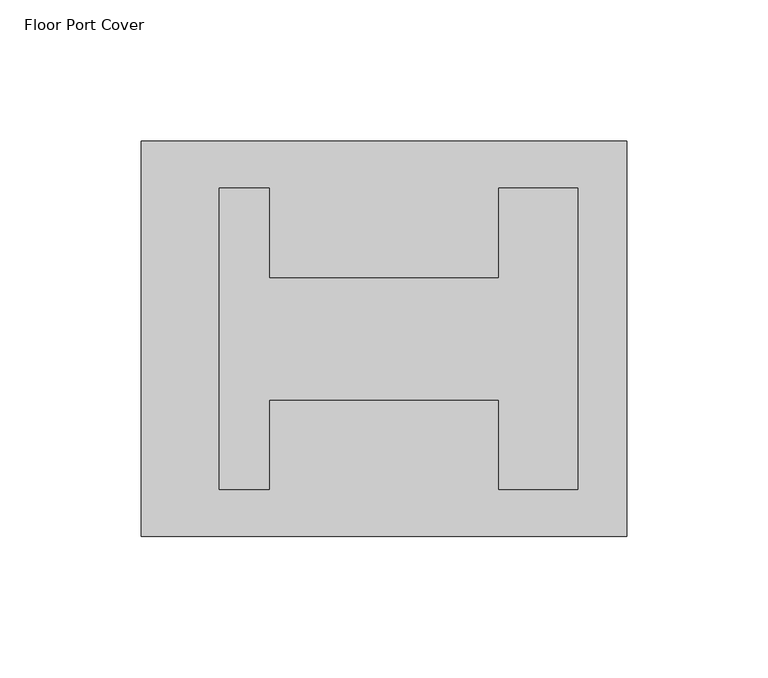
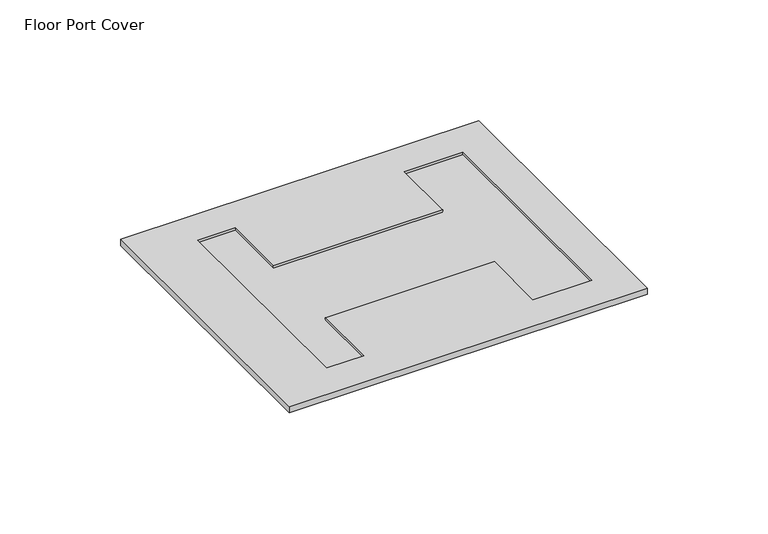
"""IFC4 building model written with IfcOpenShell, lengths in millimetres: proxy geometry, Floor Port Cover : Flangeless Cutout, Bronze."""

from ifc_helpers import new_model, si_unit, origin, place, context, project, spatial, faceted_brep, source, transform, mapped, element, save


def floor_port_cover_607aa299(model_context):
    return source(origin(), model_context, "Body", "Brep", [
        faceted_brep([(85.725, 69.85, 0.0), (85.725, -69.85, 0.0), (-85.725, -69.85, 0.0), (-85.725, 69.85, 0.0), (85.725, 69.85, 3.175), (-85.725, 69.85, 3.175), (-85.725, -69.85, 3.175), (85.725, -69.85, 3.175), (-58.293, 53.34, 3.175), (-40.513, 53.34, 3.175), (-40.513, 21.59, 3.175), (40.513, 21.59, 3.175), (40.513, 53.34, 3.175), (68.5292, 53.34, 3.175), (68.5292, -53.34, 3.175), (40.513, -53.34, 3.175), (40.513, -21.59, 3.175), (-40.513, -21.59, 3.175), (-40.513, -53.34, 3.175), (-58.293, -53.34, 3.175), (-40.513, 53.34, 1.905), (-58.293, 53.34, 1.905), (-58.293, -53.34, 1.905), (-40.513, -53.34, 1.905), (-40.513, -21.59, 1.905), (40.513, -21.59, 1.905), (40.513, -53.34, 1.905), (68.5292, -53.34, 1.905), (68.5292, 53.34, 1.905), (40.513, 53.34, 1.905), (40.513, 21.59, 1.905), (-40.513, 21.59, 1.905)], [[[0, 1, 2, 3]], [[4, 5, 6, 7], [8, 9, 10, 11, 12, 13, 14, 15, 16, 17, 18, 19]], [[0, 3, 5, 4]], [[3, 2, 6, 5]], [[2, 1, 7, 6]], [[1, 0, 4, 7]], [[20, 21, 22, 23, 24, 25, 26, 27, 28, 29, 30, 31]], [[21, 20, 9, 8]], [[22, 21, 8, 19]], [[23, 22, 19, 18]], [[24, 23, 18, 17]], [[25, 24, 17, 16]], [[26, 25, 16, 15]], [[27, 26, 15, 14]], [[28, 27, 14, 13]], [[29, 28, 13, 12]], [[30, 29, 12, 11]], [[31, 30, 11, 10]], [[20, 31, 10, 9]]]),
    ])


if __name__ == "__main__":
    model = new_model("IFC4")
    model_context = context("Model", 3, world=origin())
    ifc_project = project(units=[si_unit("LENGTHUNIT", "METRE", prefix="MILLI")], contexts=[model_context])
    site = spatial("IfcSite", under=ifc_project)
    building = spatial("IfcBuilding", under=site)
    placement = place(None, origin())
    floor_port_cover_shape = floor_port_cover_607aa299(model_context)
    element("IfcBuildingElementProxy", 1, Name="Floor Port Cover : Flangeless Cutout, Bronze", ObjectType="Floor Port Cover : Flangeless Cutout, Bronze", at=placement, inside=building, context=model_context, shape_type="MappedRepresentation", body=[
        mapped(floor_port_cover_shape, transform((0.0, 0.0, 0.0), x_axis=(1.0, 0.0, 0.0), y_axis=(0.0, 1.0, 0.0), z_axis=(0.0, 0.0, 1.0))),
    ])
    save(model, "model.ifc")
